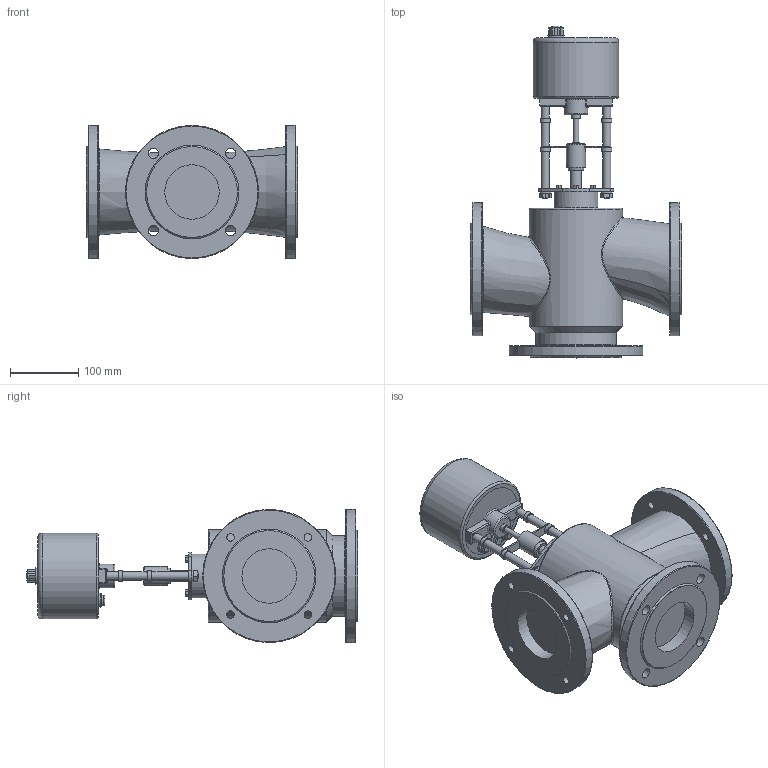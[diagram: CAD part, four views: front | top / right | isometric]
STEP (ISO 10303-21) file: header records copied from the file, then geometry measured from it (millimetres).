
FILE_DESCRIPTION(/* description */ (''),/* implementation_level */ '2;1');
FILE_NAME(/* name */ 'D:\Работа\work by\2017.01.17. клапаны для КПСР 3-хходоввые\Готовые файлы\ES 06\iges\ду 80.stp',/* time_stamp */ '2017-02-19T18:25:51+03:00',/* author */ ('Admin'),/* organization */ ('unknown'),/* preprocessor_version */ 'ST-DEVELOPER v16.1',/* originating_system */ 'Autodesk Inventor 2016',/* authorisation */ '');
FILE_SCHEMA (('AUTOMOTIVE_DESIGN { 1 0 10303 214 3 1 1 }'));
Length unit declared in the file: millimetre
Products named in the file (1): ду 80
Bounding box: 310 x 486.17 x 195 mm (x, y, z)
Volume: 7106254.1 mm3; surface area: 433684.4 mm2
Topology: 9 solids, 11 shells, 306 faces, 687 edges, 430 vertices
Faces by surface type: plane 162, cylinder 81, cone 27, torus 23, bspline 12, sphere 1
Full cylindrical faces by diameter (mm): 7.507 x1, 7.508 x1, 8 x3, 8.4 x4, 9.22 x1, 11 x8, 12 x7, 15 x8, 16 x1, 16.893 x2, 20.262 x3, 24 x1, 28 x1, 30 x1, 34.989 x1, 40 x1, 64 x1, 80 x3, 117.8 x1, 125.738 x1, 133 x3, 136.4 x1, 195 x3
Entity records: 9674 total; most frequent: CARTESIAN_POINT 3297, DIRECTION 1340, ORIENTED_EDGE 1120, EDGE_CURVE 558, AXIS2_PLACEMENT_3D 541, EDGE_LOOP 468, VERTEX_POINT 403, FACE_OUTER_BOUND 306
